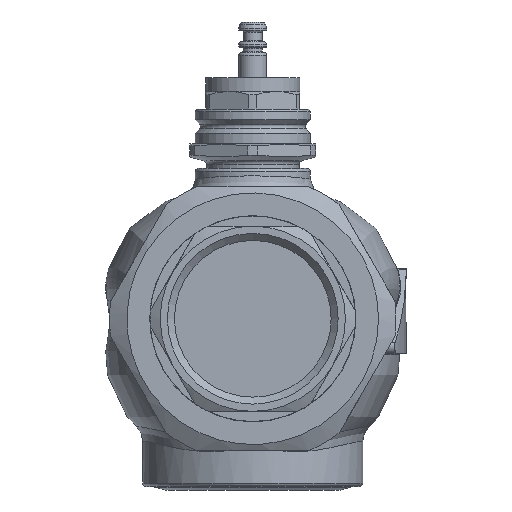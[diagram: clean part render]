
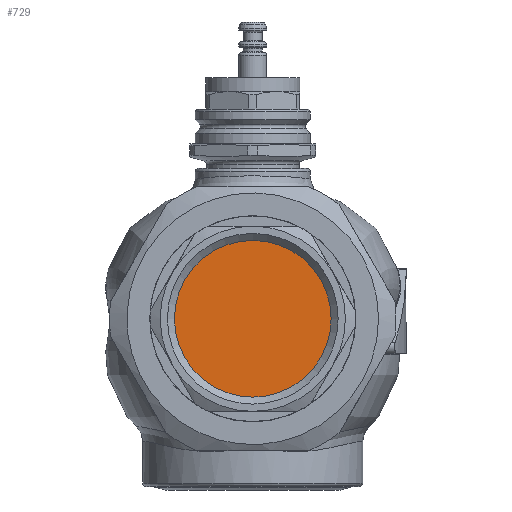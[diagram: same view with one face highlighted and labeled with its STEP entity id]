
A CAD part, left-side view. The second image highlights one B-rep face of the part: STEP entity #729.
In plain terms, the highlighted planar face has unit normal (-1, 0, 0).
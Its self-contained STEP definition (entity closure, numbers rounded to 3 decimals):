
#319=FACE_OUTER_BOUND('',#1243,.T.);
#729=ADVANCED_FACE('',(#319),#931,.T.);
#931=PLANE('',#3304);
#1243=EDGE_LOOP('',(#1630));
#1630=ORIENTED_EDGE('',*,*,#2705,.T.);
#2397=VERTEX_POINT('',#9421);
#2705=EDGE_CURVE('',#2397,#2397,#3081,.T.);
#3081=CIRCLE('',#3303,30.855);
#3303=AXIS2_PLACEMENT_3D('',#9420,#3769,#3770);
#3304=AXIS2_PLACEMENT_3D('',#9422,#3771,#3772);
#3769=DIRECTION('',(-1.,0.,0.));
#3770=DIRECTION('',(0.,-1.,0.));
#3771=DIRECTION('',(-1.,0.,0.));
#3772=DIRECTION('',(0.,-1.,0.));
#9420=CARTESIAN_POINT('',(30.,0.,100.));
#9421=CARTESIAN_POINT('',(30.,-30.855,100.));
#9422=CARTESIAN_POINT('',(30.,0.,100.));
